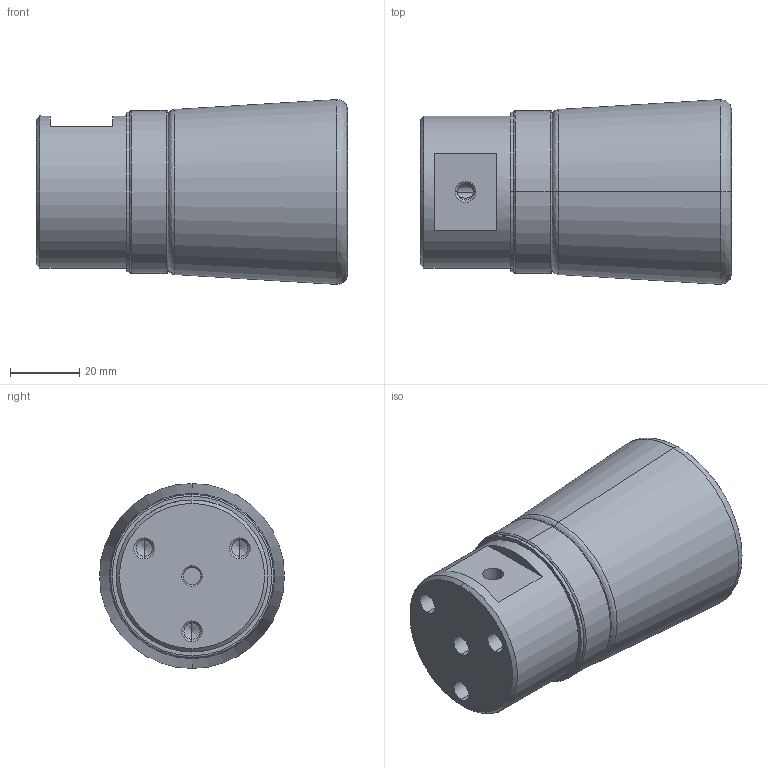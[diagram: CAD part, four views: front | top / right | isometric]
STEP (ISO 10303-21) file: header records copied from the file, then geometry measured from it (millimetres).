
FILE_DESCRIPTION( (''), '2;1');
FILE_NAME ('TGMX25.1684.RBP045TCA_23011.stp','2015-03-30T15:11:30',(''),(''),'spGate 11.3.7','spGate','');
FILE_SCHEMA (('AUTOMOTIVE_DESIGN'));
Length unit declared in the file: millimetre
Bounding box: 90 x 53.49 x 53.49 mm (x, y, z)
Volume: 156130.7 mm3; surface area: 19941.1 mm2
Topology: 1 solids, 1 shells, 69 faces, 152 edges, 87 vertices
Faces by surface type: bspline 32, cylinder 28, plane 9
Entity records: 3408 total; most frequent: CARTESIAN_POINT 869, ORIENTED_EDGE 292, DIRECTION 238, COLOUR_RGB 216, PRESENTATION_STYLE_ASSIGNMENT 216, STYLED_ITEM 216, EDGE_CURVE 146, DRAUGHTING_PRE_DEFINED_CURVE_FONT 146
